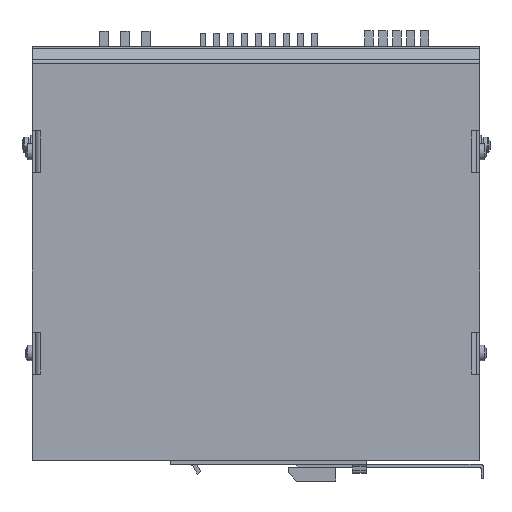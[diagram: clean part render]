
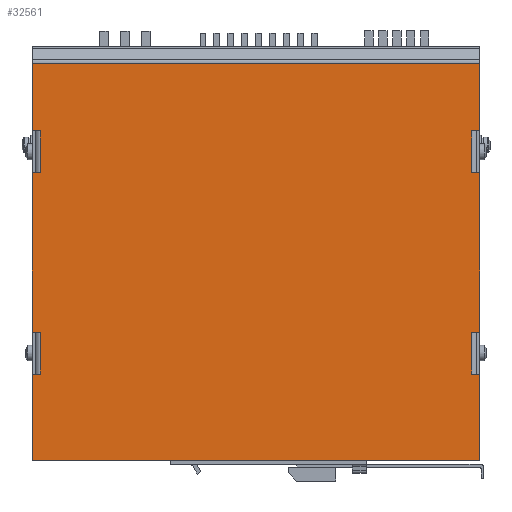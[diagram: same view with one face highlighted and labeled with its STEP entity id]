
A CAD part, left-side view. The second image highlights one B-rep face of the part: STEP entity #32561.
In plain terms, the highlighted planar face has unit normal (-1, 0, 0).
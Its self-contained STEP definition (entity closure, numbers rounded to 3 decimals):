
#2068=PLANE('',#34847);
#3630=FACE_OUTER_BOUND('',#5688,.T.);
#5688=EDGE_LOOP('',(#29170,#29171,#29172,#29173,#29174,#29175,#29176,#29177,
#29178,#29179,#29180,#29181,#29182,#29183,#29184,#29185,#29186,#29187,#29188,
#29189));
#9430=LINE('',#51202,#13378);
#9443=LINE('',#51243,#13391);
#9446=LINE('',#51260,#13394);
#9450=LINE('',#51284,#13398);
#9453=LINE('',#51303,#13401);
#9455=LINE('',#51312,#13403);
#9456=LINE('',#51313,#13404);
#9457=LINE('',#51315,#13405);
#9458=LINE('',#51317,#13406);
#9459=LINE('',#51318,#13407);
#9460=LINE('',#51320,#13408);
#9461=LINE('',#51322,#13409);
#9462=LINE('',#51324,#13410);
#9463=LINE('',#51326,#13411);
#9464=LINE('',#51327,#13412);
#9465=LINE('',#51329,#13413);
#9466=LINE('',#51331,#13414);
#9467=LINE('',#51332,#13415);
#9468=LINE('',#51334,#13416);
#9469=LINE('',#51335,#13417);
#13378=VECTOR('',#41964,1.);
#13391=VECTOR('',#42007,1.);
#13394=VECTOR('',#42024,1.);
#13398=VECTOR('',#42048,1.);
#13401=VECTOR('',#42067,1.);
#13403=VECTOR('',#42077,1.);
#13404=VECTOR('',#42078,1.);
#13405=VECTOR('',#42079,1.);
#13406=VECTOR('',#42080,1.);
#13407=VECTOR('',#42081,1.);
#13408=VECTOR('',#42082,1.);
#13409=VECTOR('',#42083,1.);
#13410=VECTOR('',#42084,1.);
#13411=VECTOR('',#42085,1.);
#13412=VECTOR('',#42086,1.);
#13413=VECTOR('',#42087,1.);
#13414=VECTOR('',#42088,1.);
#13415=VECTOR('',#42089,1.);
#13416=VECTOR('',#42090,1.);
#13417=VECTOR('',#42091,1.);
#16876=VERTEX_POINT('',#51199);
#16877=VERTEX_POINT('',#51201);
#16889=VERTEX_POINT('',#51240);
#16890=VERTEX_POINT('',#51242);
#16896=VERTEX_POINT('',#51257);
#16897=VERTEX_POINT('',#51259);
#16903=VERTEX_POINT('',#51274);
#16907=VERTEX_POINT('',#51282);
#16911=VERTEX_POINT('',#51293);
#16915=VERTEX_POINT('',#51301);
#16918=VERTEX_POINT('',#51311);
#16919=VERTEX_POINT('',#51314);
#16920=VERTEX_POINT('',#51316);
#16921=VERTEX_POINT('',#51319);
#16922=VERTEX_POINT('',#51321);
#16923=VERTEX_POINT('',#51323);
#16924=VERTEX_POINT('',#51325);
#16925=VERTEX_POINT('',#51328);
#16926=VERTEX_POINT('',#51330);
#16927=VERTEX_POINT('',#51333);
#21063=EDGE_CURVE('',#16877,#16876,#9430,.T.);
#21084=EDGE_CURVE('',#16890,#16889,#9443,.T.);
#21092=EDGE_CURVE('',#16897,#16896,#9446,.T.);
#21104=EDGE_CURVE('',#16903,#16907,#9450,.T.);
#21113=EDGE_CURVE('',#16911,#16915,#9453,.T.);
#21117=EDGE_CURVE('',#16918,#16876,#9455,.T.);
#21118=EDGE_CURVE('',#16918,#16911,#9456,.T.);
#21119=EDGE_CURVE('',#16919,#16915,#9457,.T.);
#21120=EDGE_CURVE('',#16920,#16919,#9458,.T.);
#21121=EDGE_CURVE('',#16920,#16903,#9459,.T.);
#21122=EDGE_CURVE('',#16921,#16907,#9460,.T.);
#21123=EDGE_CURVE('',#16922,#16921,#9461,.T.);
#21124=EDGE_CURVE('',#16923,#16922,#9462,.T.);
#21125=EDGE_CURVE('',#16924,#16923,#9463,.T.);
#21126=EDGE_CURVE('',#16924,#16890,#9464,.T.);
#21127=EDGE_CURVE('',#16925,#16889,#9465,.T.);
#21128=EDGE_CURVE('',#16926,#16925,#9466,.T.);
#21129=EDGE_CURVE('',#16926,#16897,#9467,.T.);
#21130=EDGE_CURVE('',#16927,#16896,#9468,.T.);
#21131=EDGE_CURVE('',#16877,#16927,#9469,.T.);
#29170=ORIENTED_EDGE('',*,*,#21063,.T.);
#29171=ORIENTED_EDGE('',*,*,#21117,.F.);
#29172=ORIENTED_EDGE('',*,*,#21118,.T.);
#29173=ORIENTED_EDGE('',*,*,#21113,.T.);
#29174=ORIENTED_EDGE('',*,*,#21119,.F.);
#29175=ORIENTED_EDGE('',*,*,#21120,.F.);
#29176=ORIENTED_EDGE('',*,*,#21121,.T.);
#29177=ORIENTED_EDGE('',*,*,#21104,.T.);
#29178=ORIENTED_EDGE('',*,*,#21122,.F.);
#29179=ORIENTED_EDGE('',*,*,#21123,.F.);
#29180=ORIENTED_EDGE('',*,*,#21124,.F.);
#29181=ORIENTED_EDGE('',*,*,#21125,.F.);
#29182=ORIENTED_EDGE('',*,*,#21126,.T.);
#29183=ORIENTED_EDGE('',*,*,#21084,.T.);
#29184=ORIENTED_EDGE('',*,*,#21127,.F.);
#29185=ORIENTED_EDGE('',*,*,#21128,.F.);
#29186=ORIENTED_EDGE('',*,*,#21129,.T.);
#29187=ORIENTED_EDGE('',*,*,#21092,.T.);
#29188=ORIENTED_EDGE('',*,*,#21130,.F.);
#29189=ORIENTED_EDGE('',*,*,#21131,.F.);
#32561=ADVANCED_FACE('',(#3630),#2068,.F.);
#34847=AXIS2_PLACEMENT_3D('',#51310,#42075,#42076);
#41964=DIRECTION('',(0.,1.,0.));
#42007=DIRECTION('',(0.,0.,1.));
#42024=DIRECTION('',(0.,0.,1.));
#42048=DIRECTION('',(0.,0.,-1.));
#42067=DIRECTION('',(0.,0.,-1.));
#42075=DIRECTION('center_axis',(1.,0.,0.));
#42076=DIRECTION('ref_axis',(0.,0.,-1.));
#42077=DIRECTION('',(0.,0.,1.));
#42078=DIRECTION('',(0.,-1.,0.));
#42079=DIRECTION('',(0.,-1.,0.));
#42080=DIRECTION('',(0.,0.,1.));
#42081=DIRECTION('',(0.,-1.,0.));
#42082=DIRECTION('',(0.,-1.,0.));
#42083=DIRECTION('',(0.,0.,1.));
#42084=DIRECTION('',(0.,1.,0.));
#42085=DIRECTION('',(0.,0.,-1.));
#42086=DIRECTION('',(0.,1.,0.));
#42087=DIRECTION('',(0.,1.,0.));
#42088=DIRECTION('',(0.,0.,-1.));
#42089=DIRECTION('',(0.,1.,0.));
#42090=DIRECTION('',(0.,1.,0.));
#42091=DIRECTION('',(0.,0.,-1.));
#51199=CARTESIAN_POINT('',(-1.,159.,141.054));
#51201=CARTESIAN_POINT('',(-1.,-1.,141.054));
#51202=CARTESIAN_POINT('',(-1.,79.,141.054));
#51240=CARTESIAN_POINT('',(-1.,1.8,44.8));
#51242=CARTESIAN_POINT('',(-1.,1.8,29.8));
#51243=CARTESIAN_POINT('',(-1.,1.8,53.869));
#51257=CARTESIAN_POINT('',(-1.,1.8,116.8));
#51259=CARTESIAN_POINT('',(-1.,1.8,101.8));
#51260=CARTESIAN_POINT('',(-1.,1.8,89.869));
#51274=CARTESIAN_POINT('',(-1.,156.2,44.8));
#51282=CARTESIAN_POINT('',(-1.,156.2,29.8));
#51284=CARTESIAN_POINT('',(-1.,156.2,53.869));
#51293=CARTESIAN_POINT('',(-1.,156.2,116.8));
#51301=CARTESIAN_POINT('',(-1.,156.2,101.8));
#51303=CARTESIAN_POINT('',(-1.,156.2,89.869));
#51310=CARTESIAN_POINT('Origin',(-1.,79.,70.438));
#51311=CARTESIAN_POINT('',(-1.,159.,116.8));
#51312=CARTESIAN_POINT('',(-1.,159.,116.8));
#51313=CARTESIAN_POINT('',(-1.,118.05,116.8));
#51314=CARTESIAN_POINT('',(-1.,159.,101.8));
#51315=CARTESIAN_POINT('',(-1.,159.,101.8));
#51316=CARTESIAN_POINT('',(-1.,159.,44.8));
#51317=CARTESIAN_POINT('',(-1.,159.,44.8));
#51318=CARTESIAN_POINT('',(-1.,118.05,44.8));
#51319=CARTESIAN_POINT('',(-1.,159.,29.8));
#51320=CARTESIAN_POINT('',(-1.,159.,29.8));
#51321=CARTESIAN_POINT('',(-1.,159.,-1.));
#51322=CARTESIAN_POINT('',(-1.,159.,-1.));
#51323=CARTESIAN_POINT('',(-1.,-1.,-1.));
#51324=CARTESIAN_POINT('',(-1.,-1.,-1.));
#51325=CARTESIAN_POINT('',(-1.,-1.,29.8));
#51326=CARTESIAN_POINT('',(-1.,-1.,29.8));
#51327=CARTESIAN_POINT('',(-1.,39.95,29.8));
#51328=CARTESIAN_POINT('',(-1.,-1.,44.8));
#51329=CARTESIAN_POINT('',(-1.,-1.,44.8));
#51330=CARTESIAN_POINT('',(-1.,-1.,101.8));
#51331=CARTESIAN_POINT('',(-1.,-1.,101.8));
#51332=CARTESIAN_POINT('',(-1.,39.95,101.8));
#51333=CARTESIAN_POINT('',(-1.,-1.,116.8));
#51334=CARTESIAN_POINT('',(-1.,-1.,116.8));
#51335=CARTESIAN_POINT('',(-1.,-1.,141.8));
